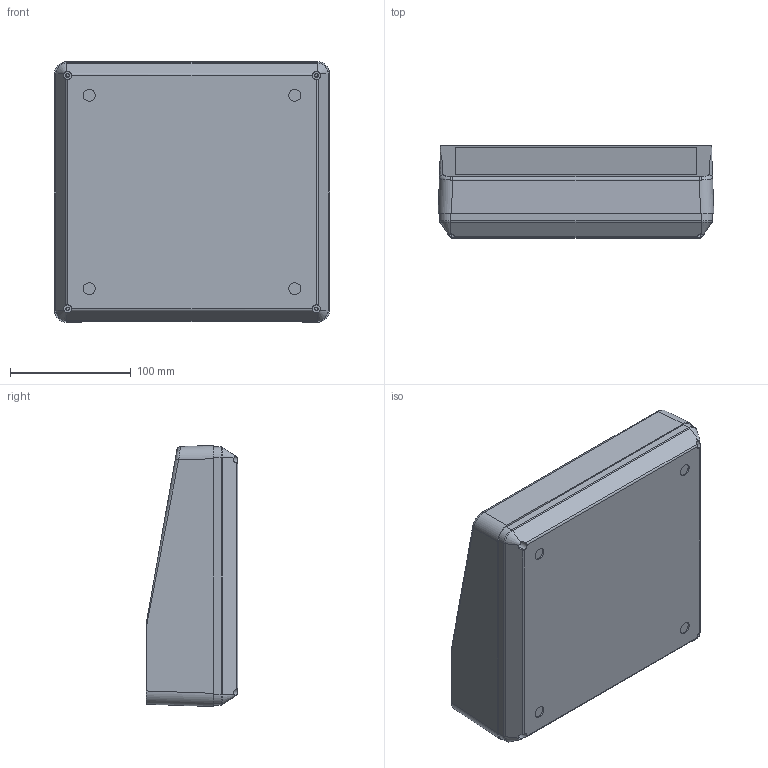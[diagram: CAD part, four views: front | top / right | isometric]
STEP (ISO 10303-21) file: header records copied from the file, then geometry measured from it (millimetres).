
FILE_DESCRIPTION (( 'STEP AP214' ), '1' );
FILE_NAME ('SE-107 Assembly.STEP', '2023-12-18T19:09:40', ( '' ), ( '' ), 'SwSTEP 2.0', 'SolidWorks 2016', '' );
FILE_SCHEMA (( 'AUTOMOTIVE_DESIGN' ));
Length unit declared in the file: inch
Products named in the file (6): Threaded insert_1; SE-107 Bottom; SE-107 Assembly; SE-107 Top; SE-107 aluminum; SE-107 top assy
Assembly tree (8 placements, depth 3):
  SE-107 Assembly
    SE-107 Bottom
    SE-107 top assy
      SE-107 Top
      Threaded insert_1  x4
      SE-107 aluminum
Bounding box: 228 x 76 x 216 mm (x, y, z)
Volume: 385281.2 mm3; surface area: 315642.1 mm2
Topology: 8 solids, 8 shells, 587 faces, 1522 edges, 972 vertices
Faces by surface type: plane 264, cylinder 196, bspline 49, cone 40, torus 30, sphere 8
Entity records: 19142 total; most frequent: CARTESIAN_POINT 6719, ORIENTED_EDGE 2596, DIRECTION 2320, EDGE_CURVE 1298, VERTEX_POINT 828, AXIS2_PLACEMENT_3D 796, VECTOR 728, LINE 728
